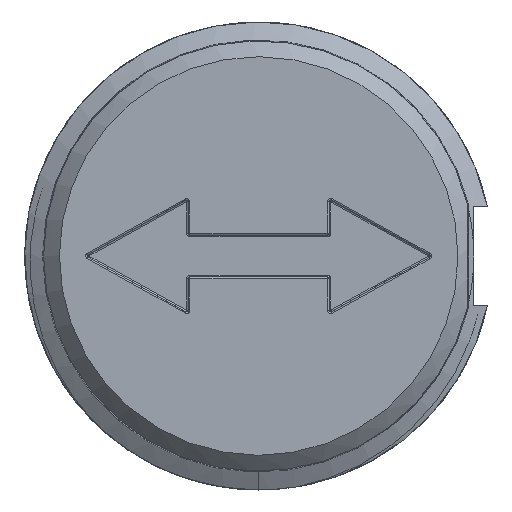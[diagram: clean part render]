
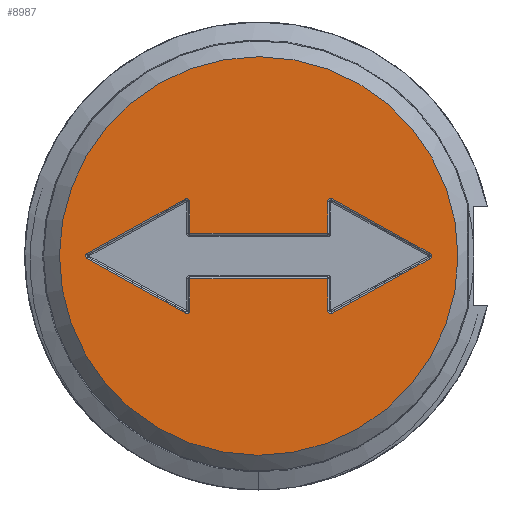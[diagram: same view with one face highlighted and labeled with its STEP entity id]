
A CAD part, left-side view. The second image highlights one B-rep face of the part: STEP entity #8987.
In plain terms, the highlighted planar face has unit normal (-1, 0, 0).
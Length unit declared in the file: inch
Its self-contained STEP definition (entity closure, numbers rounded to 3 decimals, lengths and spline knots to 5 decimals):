
#16=ELLIPSE('',#9364,0.00788,0.00787);
#18=ELLIPSE('',#9369,0.00788,0.00787);
#20=ELLIPSE('',#9374,0.00788,0.00787);
#22=ELLIPSE('',#9387,0.00788,0.00787);
#24=ELLIPSE('',#9392,0.00788,0.00787);
#26=ELLIPSE('',#9397,0.00788,0.00787);
#68=FACE_BOUND('',#2380,.T.);
#171=PLANE('',#9424);
#1850=FACE_OUTER_BOUND('',#2379,.T.);
#2379=EDGE_LOOP('',(#8119));
#2380=EDGE_LOOP('',(#8120,#8121,#8122,#8123,#8124,#8125,#8126,#8127,#8128,
#8129,#8130,#8131,#8132,#8133,#8134,#8135));
#2580=CIRCLE('',#9425,0.50042);
#2913=LINE('',#27677,#3291);
#2915=LINE('',#27723,#3293);
#2917=LINE('',#27769,#3295);
#2919=LINE('',#27815,#3297);
#2921=LINE('',#27823,#3299);
#2923=LINE('',#27833,#3301);
#2925=LINE('',#27879,#3303);
#2927=LINE('',#27925,#3305);
#2929=LINE('',#27971,#3307);
#2931=LINE('',#27980,#3309);
#3291=VECTOR('',#10380,0.3937);
#3293=VECTOR('',#10392,0.3937);
#3295=VECTOR('',#10404,0.3937);
#3297=VECTOR('',#10416,0.3937);
#3299=VECTOR('',#10424,0.3937);
#3301=VECTOR('',#10436,0.3937);
#3303=VECTOR('',#10448,0.3937);
#3305=VECTOR('',#10460,0.3937);
#3307=VECTOR('',#10472,0.3937);
#3309=VECTOR('',#10484,0.3937);
#4149=VERTEX_POINT('',#27670);
#4152=VERTEX_POINT('',#27675);
#4153=VERTEX_POINT('',#27713);
#4155=VERTEX_POINT('',#27719);
#4157=VERTEX_POINT('',#27759);
#4159=VERTEX_POINT('',#27765);
#4161=VERTEX_POINT('',#27805);
#4163=VERTEX_POINT('',#27811);
#4165=VERTEX_POINT('',#27817);
#4168=VERTEX_POINT('',#27827);
#4171=VERTEX_POINT('',#27869);
#4173=VERTEX_POINT('',#27875);
#4175=VERTEX_POINT('',#27915);
#4177=VERTEX_POINT('',#27921);
#4179=VERTEX_POINT('',#27961);
#4181=VERTEX_POINT('',#27967);
#4196=VERTEX_POINT('',#28028);
#5467=EDGE_CURVE('',#4152,#4149,#2913,.T.);
#5470=EDGE_CURVE('',#4149,#4153,#16,.T.);
#5473=EDGE_CURVE('',#4153,#4155,#2915,.T.);
#5476=EDGE_CURVE('',#4155,#4157,#18,.T.);
#5479=EDGE_CURVE('',#4157,#4159,#2917,.T.);
#5482=EDGE_CURVE('',#4159,#4161,#20,.T.);
#5485=EDGE_CURVE('',#4161,#4163,#2919,.T.);
#5489=EDGE_CURVE('',#4163,#4165,#2921,.T.);
#5494=EDGE_CURVE('',#4165,#4168,#2923,.T.);
#5497=EDGE_CURVE('',#4168,#4171,#22,.T.);
#5500=EDGE_CURVE('',#4171,#4173,#2925,.T.);
#5503=EDGE_CURVE('',#4173,#4175,#24,.T.);
#5506=EDGE_CURVE('',#4175,#4177,#2927,.T.);
#5509=EDGE_CURVE('',#4177,#4179,#26,.T.);
#5512=EDGE_CURVE('',#4179,#4181,#2929,.T.);
#5517=EDGE_CURVE('',#4181,#4152,#2931,.T.);
#5541=EDGE_CURVE('',#4196,#4196,#2580,.T.);
#8119=ORIENTED_EDGE('',*,*,#5541,.F.);
#8120=ORIENTED_EDGE('',*,*,#5467,.F.);
#8121=ORIENTED_EDGE('',*,*,#5517,.F.);
#8122=ORIENTED_EDGE('',*,*,#5512,.F.);
#8123=ORIENTED_EDGE('',*,*,#5509,.F.);
#8124=ORIENTED_EDGE('',*,*,#5506,.F.);
#8125=ORIENTED_EDGE('',*,*,#5503,.F.);
#8126=ORIENTED_EDGE('',*,*,#5500,.F.);
#8127=ORIENTED_EDGE('',*,*,#5497,.F.);
#8128=ORIENTED_EDGE('',*,*,#5494,.F.);
#8129=ORIENTED_EDGE('',*,*,#5489,.F.);
#8130=ORIENTED_EDGE('',*,*,#5485,.F.);
#8131=ORIENTED_EDGE('',*,*,#5482,.F.);
#8132=ORIENTED_EDGE('',*,*,#5479,.F.);
#8133=ORIENTED_EDGE('',*,*,#5476,.F.);
#8134=ORIENTED_EDGE('',*,*,#5473,.F.);
#8135=ORIENTED_EDGE('',*,*,#5470,.F.);
#8987=ADVANCED_FACE('',(#1850,#68),#171,.T.);
#9364=AXIS2_PLACEMENT_3D('',#27717,#10385,#10386);
#9369=AXIS2_PLACEMENT_3D('',#27763,#10397,#10398);
#9374=AXIS2_PLACEMENT_3D('',#27809,#10409,#10410);
#9387=AXIS2_PLACEMENT_3D('',#27873,#10441,#10442);
#9392=AXIS2_PLACEMENT_3D('',#27919,#10453,#10454);
#9397=AXIS2_PLACEMENT_3D('',#27965,#10465,#10466);
#9424=AXIS2_PLACEMENT_3D('',#28027,#10539,#10540);
#9425=AXIS2_PLACEMENT_3D('',#28029,#10541,#10542);
#10380=DIRECTION('',(0.,0.,-1.));
#10385=DIRECTION('center_axis',(-1.,0.,0.));
#10386=DIRECTION('ref_axis',(0.,0.507,-0.862));
#10392=DIRECTION('',(0.,-0.874,0.485));
#10397=DIRECTION('center_axis',(-1.,0.,0.));
#10398=DIRECTION('ref_axis',(0.,-1.,0.));
#10404=DIRECTION('',(0.,0.874,0.485));
#10409=DIRECTION('center_axis',(-1.,0.,0.));
#10410=DIRECTION('ref_axis',(0.,0.507,0.862));
#10416=DIRECTION('',(0.,0.,-1.));
#10424=DIRECTION('',(0.,1.,0.));
#10436=DIRECTION('',(0.,0.,1.));
#10441=DIRECTION('center_axis',(-1.,0.,0.));
#10442=DIRECTION('ref_axis',(0.,-0.507,0.862));
#10448=DIRECTION('',(0.,0.874,-0.485));
#10453=DIRECTION('center_axis',(-1.,0.,0.));
#10454=DIRECTION('ref_axis',(0.,1.,0.));
#10460=DIRECTION('',(0.,-0.874,-0.485));
#10465=DIRECTION('center_axis',(-1.,0.,0.));
#10466=DIRECTION('ref_axis',(0.,-0.507,-0.862));
#10472=DIRECTION('',(0.,0.,1.));
#10484=DIRECTION('',(0.,-1.,0.));
#10539=DIRECTION('center_axis',(-1.,0.,0.));
#10540=DIRECTION('ref_axis',(0.,0.,1.));
#10541=DIRECTION('center_axis',(1.,0.,0.));
#10542=DIRECTION('ref_axis',(0.,0.985,-0.17));
#27670=CARTESIAN_POINT('',(-0.32283,-0.17278,-0.13638));
#27675=CARTESIAN_POINT('',(-0.32283,-0.17278,-0.05663));
#27677=CARTESIAN_POINT('',(-0.32283,-0.17278,-0.07139));
#27713=CARTESIAN_POINT('',(-0.32283,-0.18447,-0.14327));
#27717=CARTESIAN_POINT('Origin',(-0.32283,-0.18066,
-0.13638));
#27719=CARTESIAN_POINT('',(-0.32283,-0.43037,-0.00689));
#27723=CARTESIAN_POINT('',(-0.32283,-0.26873,-0.09654));
#27759=CARTESIAN_POINT('',(-0.32283,-0.43037,0.00689));
#27763=CARTESIAN_POINT('Origin',(-0.32283,-0.42655,
0.));
#27765=CARTESIAN_POINT('',(-0.32283,-0.18447,0.14327));
#27769=CARTESIAN_POINT('',(-0.32283,-0.14002,0.16793));
#27805=CARTESIAN_POINT('',(-0.32283,-0.17278,0.13638));
#27809=CARTESIAN_POINT('Origin',(-0.32283,-0.18066,
0.13638));
#27811=CARTESIAN_POINT('',(-0.32283,-0.17278,0.05663));
#27815=CARTESIAN_POINT('',(-0.32283,-0.17278,0.02626));
#27817=CARTESIAN_POINT('',(-0.32283,0.17278,0.05663));
#27823=CARTESIAN_POINT('',(-0.32283,0.09041,0.05663));
#27827=CARTESIAN_POINT('',(-0.32283,0.17278,0.13638));
#27833=CARTESIAN_POINT('',(-0.32283,0.17278,0.07139));
#27869=CARTESIAN_POINT('',(-0.32283,0.18447,0.14327));
#27873=CARTESIAN_POINT('Origin',(-0.32283,0.18066,0.13638));
#27875=CARTESIAN_POINT('',(-0.32283,0.43037,0.00689));
#27879=CARTESIAN_POINT('',(-0.32283,0.27174,0.09487));
#27915=CARTESIAN_POINT('',(-0.32283,0.43037,-0.00689));
#27919=CARTESIAN_POINT('Origin',(-0.32283,0.42655,0.));
#27921=CARTESIAN_POINT('',(-0.32283,0.18447,-0.14327));
#27925=CARTESIAN_POINT('',(-0.32283,0.14303,-0.16626));
#27961=CARTESIAN_POINT('',(-0.32283,0.17278,-0.13638));
#27965=CARTESIAN_POINT('Origin',(-0.32283,0.18066,-0.13638));
#27967=CARTESIAN_POINT('',(-0.32283,0.17278,-0.05663));
#27971=CARTESIAN_POINT('',(-0.32283,0.17278,-0.02626));
#27980=CARTESIAN_POINT('',(-0.32283,-0.08648,-0.05663));
#28027=CARTESIAN_POINT('Origin',(-0.32283,0.00394,
0.));
#28028=CARTESIAN_POINT('',(-0.32283,-0.49313,0.08515));
#28029=CARTESIAN_POINT('Origin',(-0.32283,0.,
0.));
